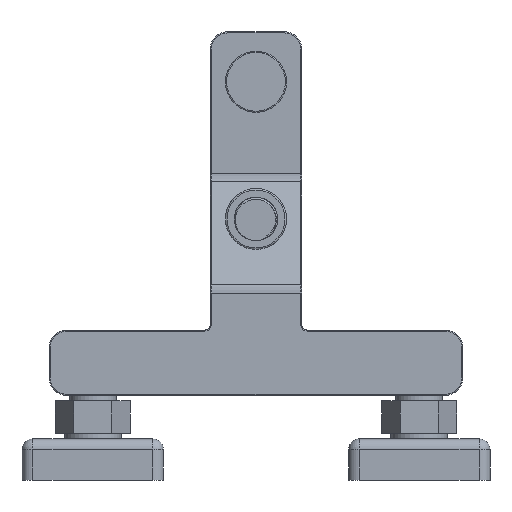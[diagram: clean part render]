
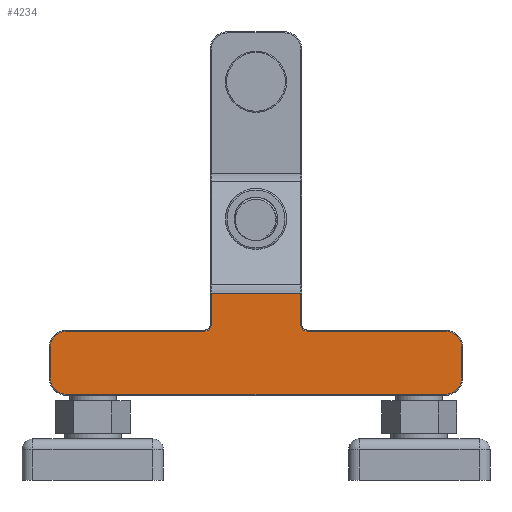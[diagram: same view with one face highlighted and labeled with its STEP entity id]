
A CAD part, front view. The second image highlights one B-rep face of the part: STEP entity #4234.
In plain terms, the highlighted planar face has unit normal (0, -1, 0).
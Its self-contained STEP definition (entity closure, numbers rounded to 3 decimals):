
#264=PLANE('',#4800);
#555=FACE_OUTER_BOUND('',#839,.T.);
#839=EDGE_LOOP('',(#3817,#3818,#3819,#3820,#3821,#3822,#3823,#3824,#3825,
#3826,#3827,#3828,#3829,#3830));
#1046=LINE('',#9564,#1318);
#1048=LINE('',#9568,#1320);
#1090=LINE('',#9806,#1362);
#1091=LINE('',#9814,#1363);
#1092=LINE('',#9822,#1364);
#1094=LINE('',#9834,#1366);
#1096=LINE('',#9846,#1368);
#1097=LINE('',#9853,#1369);
#1318=VECTOR('',#5771,10.);
#1320=VECTOR('',#5777,10.);
#1362=VECTOR('',#5979,10.);
#1363=VECTOR('',#5990,10.);
#1364=VECTOR('',#6001,10.);
#1366=VECTOR('',#6015,10.);
#1368=VECTOR('',#6029,10.);
#1369=VECTOR('',#6040,10.);
#1606=CIRCLE('',#4723,3.);
#1609=CIRCLE('',#4728,7.5);
#1612=CIRCLE('',#4733,7.5);
#1616=CIRCLE('',#4739,7.5);
#1620=CIRCLE('',#4745,7.5);
#1624=CIRCLE('',#4751,3.);
#1886=VERTEX_POINT('',#9470);
#1895=VERTEX_POINT('',#9492);
#1920=VERTEX_POINT('',#9563);
#1973=VERTEX_POINT('',#9800);
#1974=VERTEX_POINT('',#9804);
#1975=VERTEX_POINT('',#9808);
#1976=VERTEX_POINT('',#9812);
#1977=VERTEX_POINT('',#9816);
#1978=VERTEX_POINT('',#9820);
#1979=VERTEX_POINT('',#9824);
#1981=VERTEX_POINT('',#9830);
#1983=VERTEX_POINT('',#9836);
#1985=VERTEX_POINT('',#9842);
#1987=VERTEX_POINT('',#9848);
#2453=EDGE_CURVE('',#1886,#1920,#1046,.T.);
#2456=EDGE_CURVE('',#1886,#1895,#1048,.T.);
#2544=EDGE_CURVE('',#1920,#1973,#1606,.T.);
#2546=EDGE_CURVE('',#1973,#1974,#1090,.T.);
#2548=EDGE_CURVE('',#1974,#1975,#1609,.T.);
#2550=EDGE_CURVE('',#1975,#1976,#1091,.T.);
#2552=EDGE_CURVE('',#1976,#1977,#1612,.T.);
#2554=EDGE_CURVE('',#1977,#1978,#1092,.T.);
#2557=EDGE_CURVE('',#1978,#1979,#1616,.T.);
#2560=EDGE_CURVE('',#1979,#1981,#1094,.T.);
#2563=EDGE_CURVE('',#1981,#1983,#1620,.T.);
#2566=EDGE_CURVE('',#1983,#1985,#1096,.T.);
#2569=EDGE_CURVE('',#1985,#1987,#1624,.T.);
#2570=EDGE_CURVE('',#1987,#1895,#1097,.T.);
#3817=ORIENTED_EDGE('',*,*,#2453,.F.);
#3818=ORIENTED_EDGE('',*,*,#2456,.T.);
#3819=ORIENTED_EDGE('',*,*,#2570,.F.);
#3820=ORIENTED_EDGE('',*,*,#2569,.F.);
#3821=ORIENTED_EDGE('',*,*,#2566,.F.);
#3822=ORIENTED_EDGE('',*,*,#2563,.F.);
#3823=ORIENTED_EDGE('',*,*,#2560,.F.);
#3824=ORIENTED_EDGE('',*,*,#2557,.F.);
#3825=ORIENTED_EDGE('',*,*,#2554,.F.);
#3826=ORIENTED_EDGE('',*,*,#2552,.F.);
#3827=ORIENTED_EDGE('',*,*,#2550,.F.);
#3828=ORIENTED_EDGE('',*,*,#2548,.F.);
#3829=ORIENTED_EDGE('',*,*,#2546,.F.);
#3830=ORIENTED_EDGE('',*,*,#2544,.F.);
#4234=ADVANCED_FACE('',(#555),#264,.F.);
#4723=AXIS2_PLACEMENT_3D('',#9802,#5973,#5974);
#4728=AXIS2_PLACEMENT_3D('',#9810,#5984,#5985);
#4733=AXIS2_PLACEMENT_3D('',#9818,#5995,#5996);
#4739=AXIS2_PLACEMENT_3D('',#9828,#6008,#6009);
#4745=AXIS2_PLACEMENT_3D('',#9840,#6022,#6023);
#4751=AXIS2_PLACEMENT_3D('',#9851,#6036,#6037);
#4800=AXIS2_PLACEMENT_3D('',#10024,#6149,#6150);
#5771=DIRECTION('',(0.,0.,-1.));
#5777=DIRECTION('',(-1.,0.,0.));
#5973=DIRECTION('center_axis',(0.,-1.,0.));
#5974=DIRECTION('ref_axis',(-0.707,0.,-0.707));
#5979=DIRECTION('',(1.,0.,0.));
#5984=DIRECTION('center_axis',(0.,1.,0.));
#5985=DIRECTION('ref_axis',(0.707,0.,0.707));
#5990=DIRECTION('',(0.,0.,-1.));
#5995=DIRECTION('center_axis',(0.,1.,0.));
#5996=DIRECTION('ref_axis',(0.707,0.,-0.707));
#6001=DIRECTION('',(-1.,0.,0.));
#6008=DIRECTION('center_axis',(0.,1.,0.));
#6009=DIRECTION('ref_axis',(-0.707,0.,-0.707));
#6015=DIRECTION('',(0.,0.,1.));
#6022=DIRECTION('center_axis',(0.,1.,0.));
#6023=DIRECTION('ref_axis',(-0.707,0.,0.707));
#6029=DIRECTION('',(1.,0.,0.));
#6036=DIRECTION('center_axis',(0.,-1.,0.));
#6037=DIRECTION('ref_axis',(0.707,0.,-0.707));
#6040=DIRECTION('',(0.,0.,1.));
#6149=DIRECTION('center_axis',(0.,1.,0.));
#6150=DIRECTION('ref_axis',(-1.,0.,0.));
#9470=CARTESIAN_POINT('',(20.5,-20.,86.));
#9492=CARTESIAN_POINT('',(-20.5,-20.,86.));
#9563=CARTESIAN_POINT('',(20.5,-20.,71.5));
#9564=CARTESIAN_POINT('',(20.5,-20.,54.625));
#9568=CARTESIAN_POINT('',(0.,-20.,86.));
#9800=CARTESIAN_POINT('',(23.5,-20.,68.5));
#9802=CARTESIAN_POINT('Origin',(23.5,-20.,71.5));
#9804=CARTESIAN_POINT('',(87.,-20.,68.5));
#9806=CARTESIAN_POINT('',(-11.125,-20.,68.5));
#9808=CARTESIAN_POINT('',(94.5,-20.,61.));
#9810=CARTESIAN_POINT('Origin',(87.,-20.,61.));
#9812=CARTESIAN_POINT('',(94.5,-20.,47.));
#9814=CARTESIAN_POINT('',(94.5,-20.,54.625));
#9816=CARTESIAN_POINT('',(87.,-20.,39.5));
#9818=CARTESIAN_POINT('Origin',(87.,-20.,47.));
#9820=CARTESIAN_POINT('',(-87.,-20.,39.5));
#9822=CARTESIAN_POINT('',(-11.125,-20.,39.5));
#9824=CARTESIAN_POINT('',(-94.5,-20.,47.));
#9828=CARTESIAN_POINT('Origin',(-87.,-20.,47.));
#9830=CARTESIAN_POINT('',(-94.5,-20.,61.));
#9834=CARTESIAN_POINT('',(-94.5,-20.,54.625));
#9836=CARTESIAN_POINT('',(-87.,-20.,68.5));
#9840=CARTESIAN_POINT('Origin',(-87.,-20.,61.));
#9842=CARTESIAN_POINT('',(-23.5,-20.,68.5));
#9846=CARTESIAN_POINT('',(-11.125,-20.,68.5));
#9848=CARTESIAN_POINT('',(-20.5,-20.,71.5));
#9851=CARTESIAN_POINT('Origin',(-23.5,-20.,71.5));
#9853=CARTESIAN_POINT('',(-20.5,-20.,54.625));
#10024=CARTESIAN_POINT('Origin',(-22.25,-20.,70.25));
